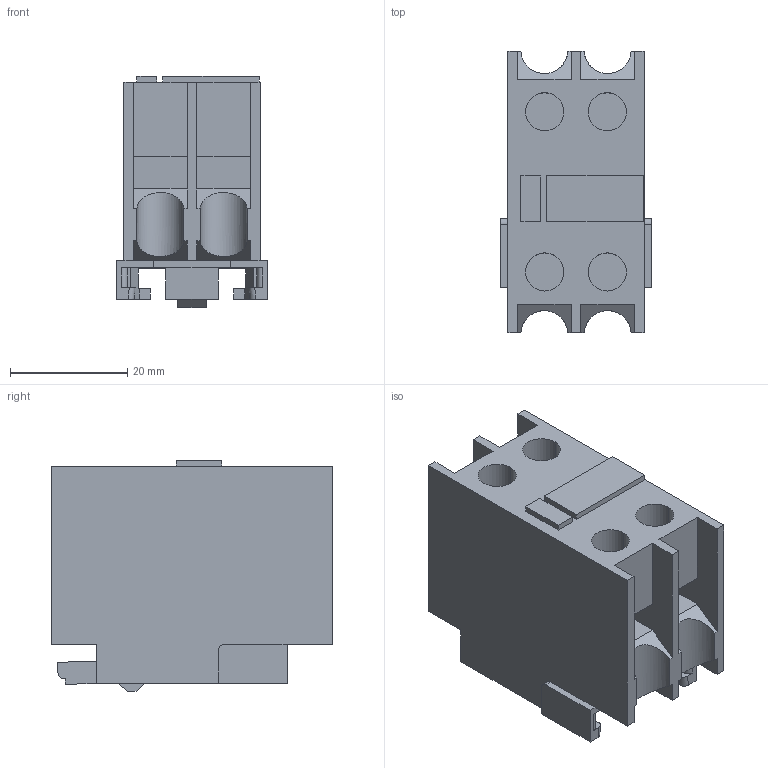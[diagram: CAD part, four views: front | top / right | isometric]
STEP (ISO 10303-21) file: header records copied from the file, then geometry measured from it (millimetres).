
FILE_DESCRIPTION (( 'STEP AP214' ), '1' );
FILE_NAME ('3d_ﾏﾊﾋ-02, 20, 11.STEP', '2023-01-28T07:14:47', ( '' ), ( '' ), 'SwSTEP 2.0', 'SolidWorks 2018', '' );
FILE_SCHEMA (( 'AUTOMOTIVE_DESIGN' ));
Length unit declared in the file: millimetre
Products named in the file (1): 3d_ﾏﾊﾋ-02, 20, 11
Bounding box: 25.6 x 48 x 39.42 mm (x, y, z)
Volume: 27638 mm3; surface area: 10786.3 mm2
Topology: 1 solids, 1 shells, 140 faces, 401 edges, 266 vertices
Faces by surface type: plane 120, cylinder 20
Entity records: 4551 total; most frequent: CARTESIAN_POINT 844, ORIENTED_EDGE 802, DIRECTION 699, EDGE_CURVE 401, VECTOR 361, LINE 361, VERTEX_POINT 266, AXIS2_PLACEMENT_3D 169
